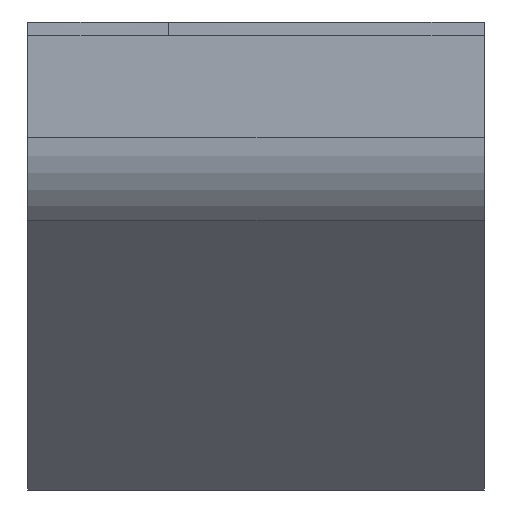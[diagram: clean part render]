
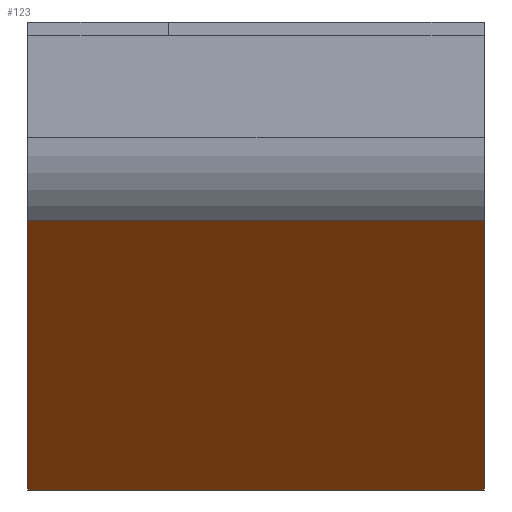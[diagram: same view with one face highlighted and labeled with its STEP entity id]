
A CAD part, left-side view. The second image highlights one B-rep face of the part: STEP entity #123.
In plain terms, the highlighted planar face has unit normal (-0.707, 0, -0.707).
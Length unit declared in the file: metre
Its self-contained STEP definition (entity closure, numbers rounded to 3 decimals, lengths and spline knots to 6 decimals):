
#123 = ADVANCED_FACE( '', ( #266 ), #267, .F. );
#266 = FACE_OUTER_BOUND( '', #416, .T. );
#267 = PLANE( '', #417 );
#416 = EDGE_LOOP( '', ( #729, #730, #731, #732 ) );
#417 = AXIS2_PLACEMENT_3D( '', #733, #734, #735 );
#729 = ORIENTED_EDGE( '', *, *, #931, .F. );
#730 = ORIENTED_EDGE( '', *, *, #962, .T. );
#731 = ORIENTED_EDGE( '', *, *, #943, .F. );
#732 = ORIENTED_EDGE( '', *, *, #916, .F. );
#733 = CARTESIAN_POINT( '', ( -0.0255, -0.006, -0.02 ) );
#734 = DIRECTION( '', ( 0.707, 0., 0.707 ) );
#735 = DIRECTION( '', ( 0., 1., 0. ) );
#916 = EDGE_CURVE( '', #1107, #1109, #1110, .T. );
#931 = EDGE_CURVE( '', #1129, #1107, #1131, .F. );
#943 = EDGE_CURVE( '', #1109, #1143, #1144, .F. );
#962 = EDGE_CURVE( '', #1129, #1143, #1170, .F. );
#1107 = VERTEX_POINT( '', #1407 );
#1109 = VERTEX_POINT( '', #1410 );
#1110 = LINE( '', #1411, #1412 );
#1129 = VERTEX_POINT( '', #1433 );
#1131 = LINE( '', #1435, #1436 );
#1143 = VERTEX_POINT( '', #1454 );
#1144 = LINE( '', #1455, #1456 );
#1170 = LINE( '', #1540, #1541 );
#1407 = CARTESIAN_POINT( '', ( -0.0255, -0.006, -0.02 ) );
#1410 = CARTESIAN_POINT( '', ( -0.0255, 0.0135, -0.02 ) );
#1411 = CARTESIAN_POINT( '', ( -0.0255, -0.006, -0.02 ) );
#1412 = VECTOR( '', #1686, 1. );
#1433 = CARTESIAN_POINT( '', ( -0.037036, -0.006, -0.008464 ) );
#1435 = CARTESIAN_POINT( '', ( -0.027375, -0.006, -0.018125 ) );
#1436 = VECTOR( '', #1707, 1. );
#1454 = CARTESIAN_POINT( '', ( -0.037036, 0.0135, -0.008464 ) );
#1455 = CARTESIAN_POINT( '', ( -0.027387, 0.0135, -0.018113 ) );
#1456 = VECTOR( '', #1711, 1. );
#1540 = CARTESIAN_POINT( '', ( -0.037036, -0.006, -0.008464 ) );
#1541 = VECTOR( '', #1732, 1. );
#1686 = DIRECTION( '', ( 0., 1., 0. ) );
#1707 = DIRECTION( '', ( -0.707, 0., 0.707 ) );
#1711 = DIRECTION( '', ( 0.707, 0., -0.707 ) );
#1732 = DIRECTION( '', ( 0., -1., 0. ) );
